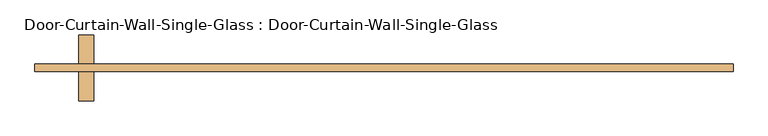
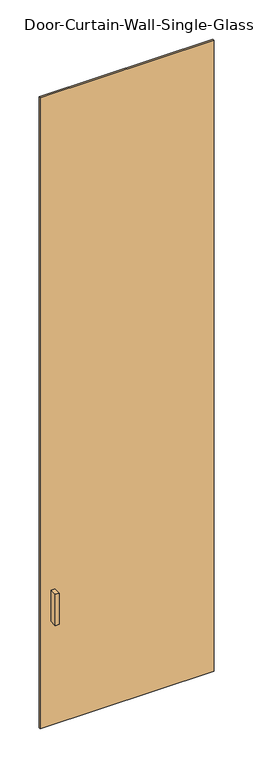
"""IFC4 building model written with IfcOpenShell, lengths in millimetres: door geometry, Door-Curtain-Wall-Single-Glass : Door-Curtain-Wall-Single-Glass."""

from ifc_helpers import new_model, si_unit, frame, origin, origin_with_axes, place, context, project, spatial, polyline, outline, extrude, source, transform, mapped, element, save


def door_curtain_wall_single_glass_door_curtain_wall_single_cd2b9e2e(model_context):
    return source(origin(), model_context, "Body", "SweptSolid", [
        extrude(outline(polyline([(603.7494819, 0.0), (603.7494819, -12.7), (-603.7494819, -12.7), (-603.7494819, 0.0), (603.7494819, 0.0)])), origin_with_axes(), (0.0, 0.0, 1.0), 4629.15),
        extrude(outline(polyline([(-502.1494819, -63.5), (-527.5494819, -63.5), (-527.5494819, -12.7), (-502.1494819, -12.7), (-502.1494819, -63.5)])), frame((0.0, 0.0, 762.0), z_axis=(0.0, 0.0, 1.0), x_axis=(1.0, 0.0, 0.0)), (0.0, 0.0, 1.0), 228.6),
        extrude(outline(polyline([(-527.5494819, 50.8), (-502.1494819, 50.8), (-502.1494819, 0.0), (-527.5494819, 0.0), (-527.5494819, 50.8)])), frame((0.0, 0.0, 762.0), z_axis=(0.0, 0.0, 1.0), x_axis=(1.0, 0.0, 0.0)), (0.0, 0.0, 1.0), 228.6),
    ])


if __name__ == "__main__":
    model = new_model("IFC4")
    model_context = context("Model", 3, world=origin())
    ifc_project = project(units=[si_unit("LENGTHUNIT", "METRE", prefix="MILLI")], contexts=[model_context])
    site = spatial("IfcSite", under=ifc_project)
    building = spatial("IfcBuilding", under=site)
    placement = place(None, origin())
    door_curtain_wall_single_glass_door_curtain_wall_single_shape = door_curtain_wall_single_glass_door_curtain_wall_single_cd2b9e2e(model_context)
    element("IfcDoor", 1, ObjectType="Door-Curtain-Wall-Single-Glass : Door-Curtain-Wall-Single-Glass", at=placement, inside=building, context=model_context, shape_type="MappedRepresentation", body=[
        mapped(door_curtain_wall_single_glass_door_curtain_wall_single_shape, transform((0.0, 0.0, 0.0), x_axis=(1.0, 0.0, 0.0), y_axis=(0.0, 1.0, 0.0), z_axis=(0.0, 0.0, 1.0))),
    ])
    save(model, "model.ifc")
